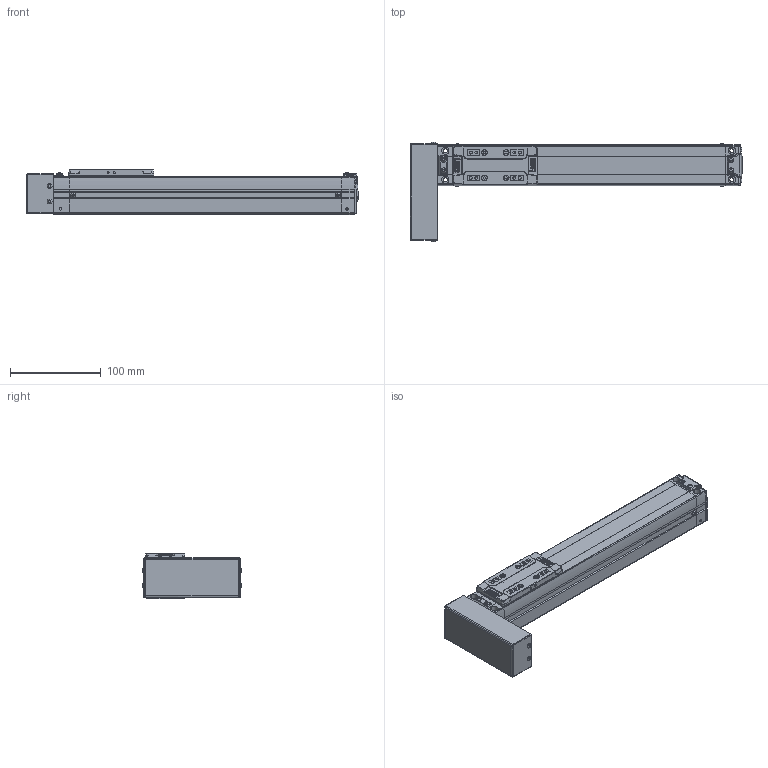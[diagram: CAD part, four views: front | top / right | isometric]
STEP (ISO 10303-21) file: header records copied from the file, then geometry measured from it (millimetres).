
FILE_DESCRIPTION(('STEP AP214'),'1');
FILE_NAME('Z:/Web/3D/SAN45/2013.ver/STP/SAN45-200PR.stp','2013-05-15T00:30:13',(' '),(' '),'Spatial InterOp 3D',' ',' ');
FILE_SCHEMA(('automotive_design'));
Length unit declared in the file: millimetre
Products named in the file (28): BODY-SAN45; REAR-SAN45; RRCV-SAN45; BHCS M3 x 6L; BHCS M3 X 6L; FRONT-SAN45; SHAFT; RN8 x 0.75; SSFX-SAN45; SLIDE-SAN45; SLCV-IM45; FHCS M3 x 6L; BTCV-SAN45
Bounding box: 366.15 x 110.13 x 50 mm (x, y, z)
Volume: 746166.4 mm3; surface area: 128906.3 mm2
Topology: 28 solids, 28 shells, 1696 faces, 4407 edges, 2848 vertices
Faces by surface type: plane 887, cylinder 591, cone 120, bspline 40, sphere 40, torus 12, extrusion 6
Entity records: 69941 total; most frequent: CARTESIAN_POINT 13337, DIRECTION 9164, ORIENTED_EDGE 8726, EDGE_CURVE 4363, AXIS2_PLACEMENT_3D 3224, VERTEX_POINT 2848, VECTOR 2716, LINE 2710
